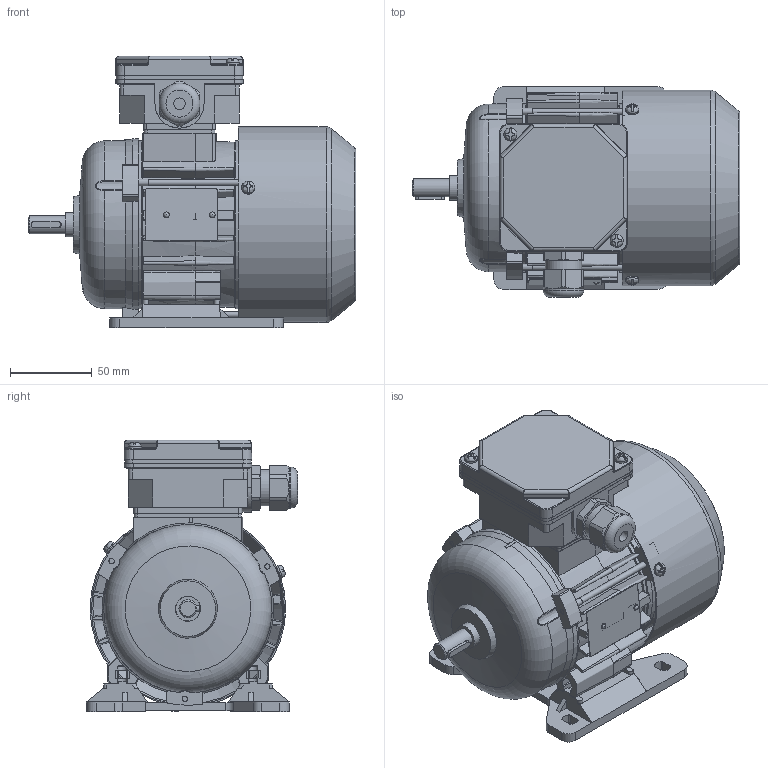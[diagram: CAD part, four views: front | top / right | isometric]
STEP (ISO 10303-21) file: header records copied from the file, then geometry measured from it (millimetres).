
FILE_DESCRIPTION( ( 'Unknown' ), '1' );
FILE_NAME( 'G:/Poczta Tk-1/STP/w.m.63/Sh63/Sh63-A.stp', 'Unknown', ( 'K. Szlosek' ), ( 'BESEL S.A.' ), 'PSStep 17.0.49', 'Unknown', ' ' );
FILE_SCHEMA( ( 'AUTOMOTIVE_DESIGN { 1 0 10303 214 1 1 1 1 }' ) );
Length unit declared in the file: millimetre
Products named in the file (30): Assem1; K2-0860 Pokrywka skrzynki zaciskowej; K3-9973 Kadłub ze stojanem wykończonym Sh63-B; Wpust A4x4x18; K3-5320 Tarcza łożyskowa P Sg63; Wkręt samogwintujący M4x8; K3-9974 Wał Sh63-B; K2-1769 Przewietrznik Sg63; K4-2320 Uszczelka nr 1 Sh71,80; K4-2820 Uszczelka nr 2 Sh71,80; Wkręt samogwintujący M4x16; Nitokołek A 2x6; K3-11364 osłona przewietrznika Sh63-A; Łożysko 6202; Śruba ściągająca E_M4x80; K2-0859 Podstawa skrzynki 6-cio zaciskowej; Dławnica M20x1,5; Tabliczka znamionowa 32x44; K1-1107 Łapa Sg63-.. w. robocza; K2-1763 Tarcza łożyskowa N Sh63
Assembly tree (46 placements, depth 2):
  Assem1
    K2-0860 Pokrywka skrzynki zaciskowej
    K3-9973 Kadłub ze stojanem wykończonym Sh63-B
    Wpust A4x4x18
    K3-5320 Tarcza łożyskowa P Sg63
    Wkręt samogwintujący M4x8  x3
    K3-9974 Wał Sh63-B
    K2-1769 Przewietrznik Sg63
    K4-2320 Uszczelka nr 1 Sh71,80
    K4-2820 Uszczelka nr 2 Sh71,80
    Wkręt samogwintujący M4x16  x2
    Nitokołek A 2x6  x2
    K3-11364 osłona przewietrznika Sh63-A
    Łożysko 6202  x2
    Łożysko 6202  x2
    Łożysko 6202  x2
    Łożysko 6202  x2
    Łożysko 6202  x2
    Łożysko 6202  x2
    Łożysko 6202  x2
    Łożysko 6202  x2
    Łożysko 6202  x2
    Łożysko 6202  x2
    Łożysko 6202  x2
    Śruba ściągająca E_M4x80  x3
    K2-0859 Podstawa skrzynki 6-cio zaciskowej
    Dławnica M20x1,5
    Tabliczka znamionowa 32x44
    K1-1107 Łapa Sg63-.. w. robocza
    K2-1763 Tarcza łożyskowa N Sh63
Bounding box: 200.3 x 129 x 166 mm (x, y, z)
Volume: 511981.1 mm3; surface area: 344607.2 mm2
Topology: 46 solids, 64 shells, 2053 faces, 5667 edges, 3675 vertices
Faces by surface type: plane 1021, cylinder 577, cone 160, torus 144, bspline 112, sphere 39
Full cylindrical faces by diameter (mm): 2 x2, 2.4 x2, 3.242 x3, 3.7 x10, 4 x8, 4.5 x4, 4.8 x4, 5 x4, 5.8 x4, 7 x4, 8 x6, 11 x1, 12.9 x1, 13.1 x1, 13.5 x1, 15 x4, 15.4 x2, 18.376 x1, 18.38 x1, 19 x2, 19.5 x1, 20 x2, 20.1 x1, 21.52 x4, 22.3 x1, 25 x1, 28 x2, 28.48 x4, 31 x2, 32 x1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
Entity records: 92821 total; most frequent: CARTESIAN_POINT 30361, ORIENTED_EDGE 9924, DIRECTION 9377, EDGE_CURVE 4962, AXIS2_PLACEMENT_3D 3494, VERTEX_POINT 3360, LINE 2389, VECTOR 2389
